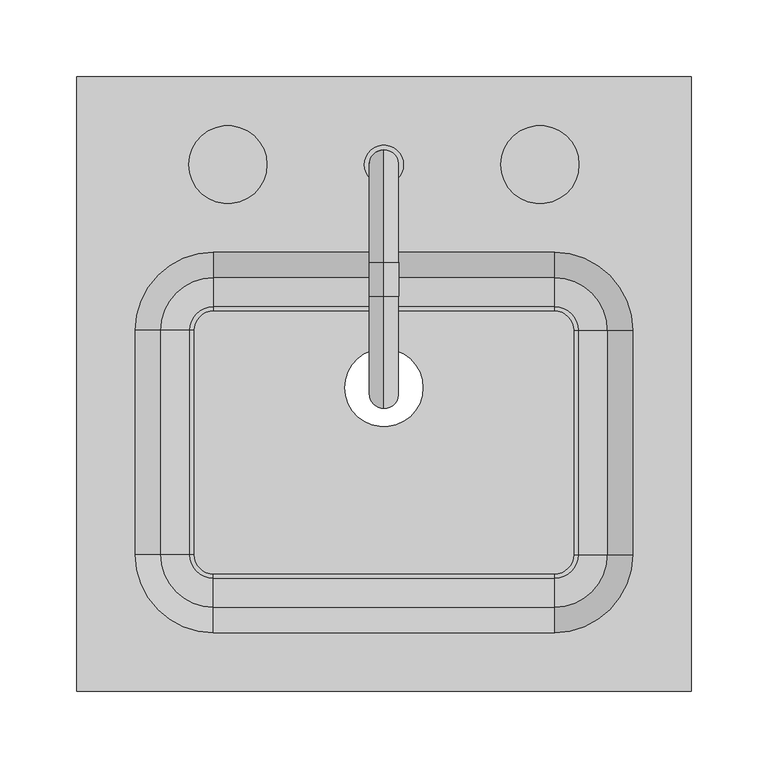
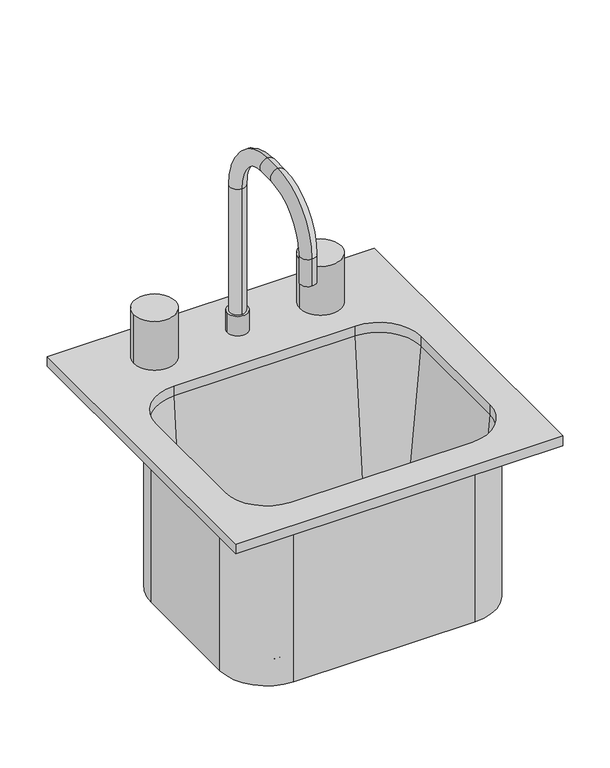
"""IFC4 building model written with IfcOpenShell, lengths in millimetres: flow terminal geometry, RF_Pias : Pia da Bancada."""

import ifcopenshell
import ifcopenshell.guid

model = None  # the IFC model being written
_history = None  # IfcOwnerHistory: only IFC2X3 demands one
_inside = {}  # id of a spatial element -> (the spatial element, [elements in it])
_under = {}  # id of a project, library or spatial element -> (it, [spatial elements below it])
_declared = {}  # id of a project -> (the project, [libraries it declares])
_typed = {}  # id of a type object -> (the type object, [elements of that type])
_made_of = {}  # id of a material, layer set ... -> (it, [elements and type objects made of it])


def new_model(schema):
    """Start an empty IFC model of exactly this schema.

    Asked for "IFC4X3", IfcOpenShell would pick the latest addendum, in which some entities
    have other attributes; the version numbers below select the first issue.
    IFC2X3 requires an IfcOwnerHistory on every rooted entity: one is made here for all.
    """
    global model, _history
    if schema == "IFC4X3":
        model = ifcopenshell.file(schema_version=(4, 3, 0, 0))
    else:
        model = ifcopenshell.file(schema=schema)
    _inside.clear()
    _under.clear()
    _declared.clear()
    _typed.clear()
    _made_of.clear()
    _history = None
    if model.schema == "IFC2X3":
        org = make("IfcOrganization", Name="unknown")
        user = make(
            "IfcPersonAndOrganization",
            ThePerson=make("IfcPerson", FamilyName="unknown"),
            TheOrganization=org,
        )
        app = make(
            "IfcApplication",
            ApplicationDeveloper=org,
            Version="unknown",
            ApplicationFullName="unknown",
            ApplicationIdentifier="unknown",
        )
        _history = make(
            "IfcOwnerHistory",
            OwningUser=user,
            OwningApplication=app,
            ChangeAction="ADDED",
            CreationDate=0,
        )
    return model


def make(cls, **values):
    """One entity of the class cls with the attributes given. An attribute that is None is left unset."""
    return model.create_entity(
        cls, **{name: value for name, value in values.items() if value is not None}
    )


def rooted(cls, **values):
    """An entity with a GlobalId (a new one), such as an element, a storey or a relation."""
    return make(cls, GlobalId=ifcopenshell.guid.new(), OwnerHistory=_history, **values)


def si_unit(unit_type, name, prefix=None):
    """IfcSIUnit, for example si_unit("LENGTHUNIT", "METRE", prefix="MILLI")."""
    return make("IfcSIUnit", UnitType=unit_type, Prefix=prefix, Name=name)


def assignment(units):
    """IfcUnitAssignment: the units of a project."""
    return None if units is None else make("IfcUnitAssignment", Units=units)


def point(xyz):
    """IfcCartesianPoint."""
    return None if xyz is None else make("IfcCartesianPoint", Coordinates=xyz)


def direction(xyz):
    """IfcDirection."""
    return None if xyz is None else make("IfcDirection", DirectionRatios=xyz)


def frame(location, z_axis=None, x_axis=None):
    """IfcAxis2Placement3D, a coordinate frame: its origin and axes. An axis left out is left unset."""
    return make(
        "IfcAxis2Placement3D",
        Location=point(location),
        Axis=direction(z_axis),
        RefDirection=direction(x_axis),
    )


def frame_2d(location, x_axis=None):
    """IfcAxis2Placement2D, a coordinate frame in the plane: its origin and x axis."""
    return make(
        "IfcAxis2Placement2D", Location=point(location), RefDirection=direction(x_axis)
    )


def origin():
    """The frame at (0, 0, 0) with its axes left unset."""
    return frame((0.0, 0.0, 0.0))


def place(relative_to, where):
    """IfcLocalPlacement: puts the frame where relative to a parent placement (None: the world)."""
    return make(
        "IfcLocalPlacement", PlacementRelTo=relative_to, RelativePlacement=where
    )


def context(
    kind, dimensions, precision=None, world=None, true_north=None, identifier=None
):
    """IfcGeometricRepresentationContext, for example the 3D "Model" context."""
    return make(
        "IfcGeometricRepresentationContext",
        ContextIdentifier=identifier,
        ContextType=kind,
        CoordinateSpaceDimension=dimensions,
        Precision=precision,
        WorldCoordinateSystem=world,
        TrueNorth=true_north,
    )


def project(units=None, contexts=None):
    """IfcProject with its units and contexts."""
    return rooted(
        "IfcProject",
        Name="project",
        RepresentationContexts=contexts,
        UnitsInContext=assignment(units),
    )


def spatial(cls, under=None, at=None, **own):
    """A site, building, storey or space (cls), placed at a placement, below another one or the project."""
    s = rooted(cls, ObjectPlacement=at, **own)
    if under is not None:
        _under.setdefault(under.id(), (under, []))[1].append(s)
    return s


def polyline(points):
    """IfcPolyline through the points."""
    return make("IfcPolyline", Points=[point(p) for p in points])


def circle_curve(where, radius):
    """IfcCircle in the frame where."""
    return make("IfcCircle", Position=where, Radius=radius)


def ellipse_curve(where, semi_axis1, semi_axis2):
    """IfcEllipse in the frame where."""
    return make(
        "IfcEllipse", Position=where, SemiAxis1=semi_axis1, SemiAxis2=semi_axis2
    )


def trimmed(basis, trim1, trim2, sense, master):
    """IfcTrimmedCurve: the piece of a basis curve between two trims."""
    return make(
        "IfcTrimmedCurve",
        BasisCurve=basis,
        Trim1=trim1,
        Trim2=trim2,
        SenseAgreement=sense,
        MasterRepresentation=master,
    )


def segment(curve, same_sense, transition):
    """IfcCompositeCurveSegment."""
    return make(
        "IfcCompositeCurveSegment",
        Transition=transition,
        SameSense=same_sense,
        ParentCurve=curve,
    )


def composite_curve(segments, self_intersect=None):
    """IfcCompositeCurve: segments joined end to end."""
    return make("IfcCompositeCurve", Segments=segments, SelfIntersect=self_intersect)


def outline(outer, holes=None, kind="AREA"):
    """IfcArbitraryClosedProfileDef: a profile drawn as a closed curve; with holes, ...WithVoids."""
    if holes is None:
        return make("IfcArbitraryClosedProfileDef", ProfileType=kind, OuterCurve=outer)
    return make(
        "IfcArbitraryProfileDefWithVoids",
        ProfileType=kind,
        OuterCurve=outer,
        InnerCurves=holes,
    )


def extrude(swept, where, along, depth):
    """IfcExtrudedAreaSolid: the profile swept, set in the frame where, extruded along a direction by depth."""
    return make(
        "IfcExtrudedAreaSolid",
        SweptArea=swept,
        Position=where,
        ExtrudedDirection=direction(along),
        Depth=depth,
    )


def shape(context_of_items, identifier, shape_type, items):
    """IfcShapeRepresentation: the items that make up one representation, for example the "Body"."""
    return make(
        "IfcShapeRepresentation",
        ContextOfItems=context_of_items,
        RepresentationIdentifier=identifier,
        RepresentationType=shape_type,
        Items=items,
    )


def source(mapping_origin, context_of_items, identifier, shape_type, items):
    """IfcRepresentationMap: a shape defined once, which mapped items show again and again."""
    return make(
        "IfcRepresentationMap",
        MappingOrigin=mapping_origin,
        MappedRepresentation=shape(context_of_items, identifier, shape_type, items),
    )


def transform(
    local_origin,
    x_axis=None,
    y_axis=None,
    z_axis=None,
    scale=None,
    scale2=None,
    scale3=None,
    uniform=True,
):
    """IfcCartesianTransformationOperator3D, or its non-uniform kind. x_axis, y_axis, z_axis: its Axis1, 2, 3."""
    if uniform:
        return make(
            "IfcCartesianTransformationOperator3D",
            Axis1=direction(x_axis),
            Axis2=direction(y_axis),
            LocalOrigin=point(local_origin),
            Scale=scale,
            Axis3=direction(z_axis),
        )
    return make(
        "IfcCartesianTransformationOperator3DnonUniform",
        Axis1=direction(x_axis),
        Axis2=direction(y_axis),
        LocalOrigin=point(local_origin),
        Scale=scale,
        Axis3=direction(z_axis),
        Scale2=scale2,
        Scale3=scale3,
    )


def mapped(mapping_source, mapping_target):
    """IfcMappedItem: shows the shape of a source again, moved by a transform."""
    return make(
        "IfcMappedItem", MappingSource=mapping_source, MappingTarget=mapping_target
    )


def made_of(thing, what):
    """Note that an element or type object is made of a material, layer set ...; save() writes the relation."""
    if what is not None:
        _made_of.setdefault(what.id(), (what, []))[1].append(thing)
    return thing


def element(
    cls,
    number,
    at=None,
    inside=None,
    cuts=None,
    type_object=None,
    material=None,
    context=None,
    identifier="Body",
    shape_type=None,
    held_by="IfcProductDefinitionShape",
    body=None,
    shapes=None,
    **own,
):
    """One element of the class cls, such as IfcWall. Its Tag is "e" and its number.

    at: its placement. inside: the storey or other place that contains it. cuts: it is an
    opening in that element (IfcRelVoidsElement). A single representation is given by context,
    identifier, shape_type and body (its items); several are given by shapes. held_by: the class
    of the entity that holds the representations. save() writes the other relations.
    """
    e = rooted(cls, Tag="e%d" % number, ObjectPlacement=at, **own)
    if body is not None:
        shapes = [shape(context, identifier, shape_type, body)]
    if shapes is not None:
        e.Representation = make(held_by, Representations=shapes)
    if inside is not None:
        _inside.setdefault(inside.id(), (inside, []))[1].append(e)
    if cuts is not None:
        rooted(
            "IfcRelVoidsElement", RelatingBuildingElement=cuts, RelatedOpeningElement=e
        )
    if type_object is not None:
        _typed.setdefault(type_object.id(), (type_object, []))[1].append(e)
    return made_of(e, material)


def aggregate(whole, parts):
    """IfcRelAggregates: a whole, such as a stair, and the parts it consists of."""
    return rooted("IfcRelAggregates", RelatingObject=whole, RelatedObjects=parts)


def save(model, path):
    """Write the relations noted so far, then the file.

    IfcRelAggregates (storeys below a building ...), IfcRelContainedInSpatialStructure (elements
    in a storey), IfcRelDefinesByType, IfcRelAssociatesMaterial and IfcRelDeclares: one each for
    every whole, place, type object, material and project.
    """
    for whole, parts in _under.values():
        aggregate(whole, parts)
    for where, things in _inside.values():
        rooted(
            "IfcRelContainedInSpatialStructure",
            RelatedElements=things,
            RelatingStructure=where,
        )
    for kind, things in _typed.values():
        rooted("IfcRelDefinesByType", RelatedObjects=things, RelatingType=kind)
    for what, things in _made_of.values():
        rooted("IfcRelAssociatesMaterial", RelatedObjects=things, RelatingMaterial=what)
    for by, libraries in _declared.values():
        rooted("IfcRelDeclares", RelatingContext=by, RelatedDefinitions=libraries)
    model.write(path)


def plane_surface(at):
    """IfcPlane: the flat surface through the origin of the frame at, square to its z axis."""
    return make("IfcPlane", Position=at)


def cylinder_surface(at, radius):
    """IfcCylindricalSurface: all points at the distance radius from the z axis of the frame at."""
    return make("IfcCylindricalSurface", Position=at, Radius=radius)


def revolved_surface(curve, axis_point, axis_direction):
    """IfcSurfaceOfRevolution: the curve turned about the line through axis_point along axis_direction."""
    return make(
        "IfcSurfaceOfRevolution",
        SweptCurve=make("IfcArbitraryOpenProfileDef", ProfileType="CURVE", Curve=curve),
        AxisPosition=make("IfcAxis1Placement", Location=point(axis_point), Axis=direction(axis_direction)),
    )


def advanced_brep(points, edges, surfaces, faces):
    """IfcAdvancedBrep: a solid bounded by faces that lie on surfaces and meet in shared edges.

    An edge is (start, end): straight between two places in points (the first is 0);
    or (start, end, curve); or (start, end, curve, False) where it runs against its curve.
    A face is (place in surfaces, loops), or (place, loops, False) where it looks against
    its surface's normal. A loop lists edges by number (the first is 1), with a minus sign
    where the edge is run from its end to its start. The first loop is the outer one.
    """
    corners = [point(p) for p in points]
    vertices = [make("IfcVertexPoint", VertexGeometry=c) for c in corners]
    made = []
    for start, end, *more in edges:
        made.append(
            make(
                "IfcEdgeCurve",
                EdgeStart=vertices[start],
                EdgeEnd=vertices[end],
                EdgeGeometry=more[0] if more else make("IfcPolyline", Points=[corners[start], corners[end]]),
                SameSense=more[1] if len(more) > 1 else True,
            )
        )
    hull = []
    for where, loops, *sense in faces:
        bounds = []
        for j, loop in enumerate(loops):
            ring = [make("IfcOrientedEdge", EdgeElement=made[abs(k) - 1], Orientation=k > 0) for k in loop]
            bounds.append(
                make(
                    "IfcFaceOuterBound" if j == 0 else "IfcFaceBound",
                    Bound=make("IfcEdgeLoop", EdgeList=ring),
                    Orientation=True,
                )
            )
        hull.append(make("IfcAdvancedFace", Bounds=bounds, FaceSurface=surfaces[where], SameSense=sense[0] if sense else True))
    return make("IfcAdvancedBrep", Outer=make("IfcClosedShell", CfsFaces=hull))


def flow_terminal_cab7bae2(model_context):
    return source(origin(), model_context, "Body", "SolidModel", [
        advanced_brep(
        [(215.6892406, 202.3454011, 927.1), (-184.3107594, 202.3454011, 927.1), (-184.3107594, -197.6545989, 927.1), (215.6892406, -197.6545989, 927.1), (126.7892406, 88.0454011, 927.1), (177.5892406, 37.2454011, 927.1), (177.5892406, -108.7545989, 927.1), (126.7892406, -159.5545989, 927.1), (-95.4107594, -159.5545989, 927.1), (-146.2107594, -108.7545989, 927.1), (-146.2107594, 37.2454011, 927.1), (-95.4107594, 88.0454011, 927.1), (215.6892406, 202.3454011, 914.4), (215.6892406, -197.6545989, 914.4), (-184.3107594, -197.6545989, 914.4), (-184.3107594, 202.3454011, 914.4), (183.9392406, 37.2454011, 914.4), (126.7892406, 94.3954011, 914.4), (-95.4107594, 94.3954011, 914.4), (-152.5607594, 37.2454011, 914.4), (-152.5607594, -108.7545989, 914.4), (-95.4107594, -165.9045989, 914.4), (126.7892406, -165.9045989, 914.4), (183.9392406, -108.7545989, 914.4), (126.7892406, 88.0454011, 914.4), (177.5892406, 37.2454011, 914.4), (177.5892406, -108.7545989, 914.4), (126.7892406, -159.5545989, 914.4), (-95.4107594, -159.5545989, 914.4), (-146.2107594, -108.7545989, 914.4), (-146.2107594, 37.2454011, 914.4), (-95.4107594, 88.0454011, 914.4), (183.9392406, 37.2454011, 698.5), (126.7892406, 94.3954011, 698.5), (139.4892406, 37.2454011, 698.5), (126.7892406, 49.9454011, 698.5), (139.4892406, 37.2454011, 708.025), (126.7892406, 49.9454011, 708.025), (142.0776588, 37.2454011, 708.025), (126.7892406, 52.5338193, 708.025), (161.0551678, 37.2454011, 725.4146831), (126.7892406, 71.5113283, 725.4146831), (183.9392406, -108.7545989, 698.5), (139.4892406, -108.7545989, 698.5), (139.4892406, -108.7545989, 708.025), (142.0776588, -108.7545989, 708.025), (161.0551678, -108.7545989, 725.4146831), (126.7892406, -165.9045989, 698.5), (126.7892406, -121.4545989, 698.5), (126.7892406, -121.4545989, 708.025), (126.7892406, -124.0430171, 708.025), (126.7892406, -143.0205261, 725.4146831), (-95.4107594, -165.9045989, 698.5), (-95.4107594, -121.4545989, 698.5), (-95.4107594, -121.4545989, 708.025), (-95.4107594, -124.0430171, 708.025), (-95.4107594, -143.0205261, 725.4146831), (-152.5607594, -108.7545989, 698.5), (-108.1107594, -108.7545989, 698.5), (-108.1107594, -108.7545989, 708.025), (-110.6991776, -108.7545989, 708.025), (-129.6766866, -108.7545989, 725.4146831), (-152.5607594, 37.2454011, 698.5), (-108.1107594, 37.2454011, 698.5), (-108.1107594, 37.2454011, 708.025), (-110.6991776, 37.2454011, 708.025), (-129.6766866, 37.2454011, 725.4146831), (-95.4107594, 94.3954011, 698.5), (-95.4107594, 49.9454011, 698.5), (-95.4107594, 49.9454011, 708.025), (-95.4107594, 52.5338193, 708.025), (-95.4107594, 71.5113283, 725.4146831)],
        [
            (0, 1),
            (1, 2),
            (2, 3),
            (3, 0),
            (4, 5, circle_curve(frame((126.7892406, 37.2454011, 927.1), z_axis=(0.0, 0.0, -1.0), x_axis=(1.0, 0.0, 0.0)), 50.8)),
            (5, 6),
            (6, 7, circle_curve(frame((126.7892406, -108.7545989, 927.1), z_axis=(0.0, 0.0, -1.0), x_axis=(1.0, 0.0, 0.0)), 50.8)),
            (7, 8),
            (8, 9, circle_curve(frame((-95.4107594, -108.7545989, 927.1), z_axis=(0.0, 0.0, -1.0), x_axis=(1.0, 0.0, 0.0)), 50.8)),
            (9, 10),
            (10, 11, circle_curve(frame((-95.4107594, 37.2454011, 927.1), z_axis=(0.0, 0.0, -1.0), x_axis=(1.0, 0.0, 0.0)), 50.8)),
            (11, 4),
            (12, 13),
            (13, 14),
            (14, 15),
            (15, 12),
            (16, 17, circle_curve(frame((126.7892406, 37.2454011, 914.4), z_axis=(0.0, 0.0, 1.0), x_axis=(0.0, 1.0, 0.0)), 57.15)),
            (17, 18),
            (18, 19, circle_curve(frame((-95.4107594, 37.2454011, 914.4), z_axis=(0.0, 0.0, 1.0), x_axis=(-1.0, 0.0, 0.0)), 57.15)),
            (19, 20),
            (20, 21, circle_curve(frame((-95.4107594, -108.7545989, 914.4), z_axis=(0.0, 0.0, 1.0), x_axis=(0.0, -1.0, 0.0)), 57.15)),
            (21, 22),
            (22, 23, circle_curve(frame((126.7892406, -108.7545989, 914.4), z_axis=(0.0, 0.0, 1.0), x_axis=(1.0, 0.0, 0.0)), 57.15)),
            (23, 16),
            (0, 12),
            (15, 1),
            (14, 2),
            (13, 3),
            (4, 24),
            (24, 25, circle_curve(frame((126.7892406, 37.2454011, 914.4), z_axis=(0.0, 0.0, -1.0), x_axis=(1.0, 0.0, 0.0)), 50.8)),
            (25, 5),
            (25, 26),
            (26, 6),
            (26, 27, circle_curve(frame((126.7892406, -108.7545989, 914.4), z_axis=(0.0, 0.0, -1.0), x_axis=(1.0, 0.0, 0.0)), 50.8)),
            (27, 7),
            (27, 28),
            (28, 8),
            (28, 29, circle_curve(frame((-95.4107594, -108.7545989, 914.4), z_axis=(0.0, 0.0, -1.0), x_axis=(1.0, 0.0, 0.0)), 50.8)),
            (29, 9),
            (29, 30),
            (30, 10),
            (30, 31, circle_curve(frame((-95.4107594, 37.2454011, 914.4), z_axis=(0.0, 0.0, -1.0), x_axis=(1.0, 0.0, 0.0)), 50.8)),
            (31, 11),
            (31, 24),
            (32, 33, circle_curve(frame((126.7892406, 37.2454011, 698.5), z_axis=(0.0, 0.0, 1.0), x_axis=(0.0, 1.0, 0.0)), 57.15)),
            (33, 17),
            (16, 32),
            (32, 34),
            (34, 35, circle_curve(frame((126.7892406, 37.2454011, 698.5), z_axis=(0.0, 0.0, 1.0), x_axis=(0.0, 1.0, 0.0)), 12.7)),
            (35, 33),
            (34, 36),
            (36, 37, circle_curve(frame((126.7892406, 37.2454011, 708.025), z_axis=(0.0, 0.0, 1.0), x_axis=(0.0, 1.0, 0.0)), 12.7)),
            (37, 35),
            (36, 38),
            (38, 39, circle_curve(frame((126.7892406, 37.2454011, 708.025), z_axis=(0.0, 0.0, 1.0), x_axis=(0.0, 1.0, 0.0)), 15.2884182)),
            (39, 37),
            (38, 40, circle_curve(frame((142.0776588, 37.2454011, 727.075), z_axis=(0.0, -1.0, 0.0), x_axis=(1.0, 0.0, 0.0)), 19.05)),
            (40, 41, circle_curve(frame((126.7892406, 37.2454011, 725.4146831), z_axis=(0.0, 0.0, 1.0), x_axis=(0.0, 1.0, 0.0)), 34.2659272)),
            (41, 39, circle_curve(frame((126.7892406, 52.5338193, 727.075), z_axis=(-1.0, 0.0, 0.0), x_axis=(0.0, 1.0, 0.0)), 19.05)),
            (40, 25),
            (24, 41),
            (23, 42),
            (42, 32),
            (42, 43),
            (43, 34),
            (43, 44),
            (44, 36),
            (44, 45),
            (45, 38),
            (45, 46, circle_curve(frame((142.0776588, -108.7545989, 727.075), z_axis=(0.0, -1.0, 0.0), x_axis=(1.0, 0.0, 0.0)), 19.05)),
            (46, 40),
            (46, 26),
            (22, 47),
            (47, 42, circle_curve(frame((126.7892406, -108.7545989, 698.5), z_axis=(0.0, 0.0, 1.0), x_axis=(1.0, 0.0, 0.0)), 57.15)),
            (47, 48),
            (48, 43, circle_curve(frame((126.7892406, -108.7545989, 698.5), z_axis=(0.0, 0.0, 1.0), x_axis=(1.0, 0.0, 0.0)), 12.7)),
            (48, 49),
            (49, 44, circle_curve(frame((126.7892406, -108.7545989, 708.025), z_axis=(0.0, 0.0, 1.0), x_axis=(1.0, 0.0, 0.0)), 12.7)),
            (49, 50),
            (50, 45, circle_curve(frame((126.7892406, -108.7545989, 708.025), z_axis=(0.0, 0.0, 1.0), x_axis=(1.0, 0.0, 0.0)), 15.2884182)),
            (50, 51, circle_curve(frame((126.7892406, -124.0430171, 727.075), z_axis=(-1.0, 0.0, 0.0), x_axis=(0.0, -1.0, 0.0)), 19.05)),
            (51, 46, circle_curve(frame((126.7892406, -108.7545989, 725.4146831), z_axis=(0.0, 0.0, 1.0), x_axis=(1.0, 0.0, 0.0)), 34.2659272)),
            (51, 27),
            (21, 52),
            (52, 47),
            (52, 53),
            (53, 48),
            (53, 54),
            (54, 49),
            (54, 55),
            (55, 50),
            (55, 56, circle_curve(frame((-95.4107594, -124.0430171, 727.075), z_axis=(-1.0, 0.0, 0.0), x_axis=(0.0, -1.0, 0.0)), 19.05)),
            (56, 51),
            (56, 28),
            (20, 57),
            (57, 52, circle_curve(frame((-95.4107594, -108.7545989, 698.5), z_axis=(0.0, 0.0, 1.0), x_axis=(0.0, -1.0, 0.0)), 57.15)),
            (57, 58),
            (58, 53, circle_curve(frame((-95.4107594, -108.7545989, 698.5), z_axis=(0.0, 0.0, 1.0), x_axis=(0.0, -1.0, 0.0)), 12.7)),
            (58, 59),
            (59, 54, circle_curve(frame((-95.4107594, -108.7545989, 708.025), z_axis=(0.0, 0.0, 1.0), x_axis=(0.0, -1.0, 0.0)), 12.7)),
            (59, 60),
            (60, 55, circle_curve(frame((-95.4107594, -108.7545989, 708.025), z_axis=(0.0, 0.0, 1.0), x_axis=(0.0, -1.0, 0.0)), 15.2884182)),
            (60, 61, circle_curve(frame((-110.6991776, -108.7545989, 727.075), z_axis=(0.0, 1.0, 0.0), x_axis=(-1.0, 0.0, 0.0)), 19.05)),
            (61, 56, circle_curve(frame((-95.4107594, -108.7545989, 725.4146831), z_axis=(0.0, 0.0, 1.0), x_axis=(0.0, -1.0, 0.0)), 34.2659272)),
            (61, 29),
            (19, 62),
            (62, 57),
            (62, 63),
            (63, 58),
            (63, 64),
            (64, 59),
            (64, 65),
            (65, 60),
            (65, 66, circle_curve(frame((-110.6991776, 37.2454011, 727.075), z_axis=(0.0, 1.0, 0.0), x_axis=(-1.0, 0.0, 0.0)), 19.05)),
            (66, 61),
            (66, 30),
            (18, 67),
            (67, 62, circle_curve(frame((-95.4107594, 37.2454011, 698.5), z_axis=(0.0, 0.0, 1.0), x_axis=(-1.0, 0.0, 0.0)), 57.15)),
            (67, 68),
            (68, 63, circle_curve(frame((-95.4107594, 37.2454011, 698.5), z_axis=(0.0, 0.0, 1.0), x_axis=(-1.0, 0.0, 0.0)), 12.7)),
            (68, 69),
            (69, 64, circle_curve(frame((-95.4107594, 37.2454011, 708.025), z_axis=(0.0, 0.0, 1.0), x_axis=(-1.0, 0.0, 0.0)), 12.7)),
            (69, 70),
            (70, 65, circle_curve(frame((-95.4107594, 37.2454011, 708.025), z_axis=(0.0, 0.0, 1.0), x_axis=(-1.0, 0.0, 0.0)), 15.2884182)),
            (70, 71, circle_curve(frame((-95.4107594, 52.5338193, 727.075), z_axis=(1.0, 0.0, 0.0), x_axis=(0.0, 1.0, 0.0)), 19.05)),
            (71, 66, circle_curve(frame((-95.4107594, 37.2454011, 725.4146831), z_axis=(0.0, 0.0, 1.0), x_axis=(-1.0, 0.0, 0.0)), 34.2659272)),
            (71, 31),
            (33, 67),
            (35, 68),
            (37, 69),
            (39, 70),
            (41, 71),
        ],
        [
            plane_surface(frame((-184.3107594, 202.3454011, 927.1), z_axis=(0.0, 0.0, 1.0), x_axis=(-1.0, 0.0, 0.0))),
            plane_surface(frame((-184.3107594, 202.3454011, 914.4), z_axis=(0.0, 0.0, -1.0), x_axis=(1.0, 0.0, 0.0))),
            plane_surface(frame((215.6892406, 202.3454011, 927.1), z_axis=(0.0, 1.0, 0.0), x_axis=(0.0, 0.0, -1.0))),
            plane_surface(frame((-184.3107594, 202.3454011, 927.1), z_axis=(-1.0, 0.0, 0.0), x_axis=(0.0, 0.0, -1.0))),
            plane_surface(frame((-184.3107594, -197.6545989, 927.1), z_axis=(0.0, -1.0, 0.0), x_axis=(0.0, 0.0, -1.0))),
            plane_surface(frame((215.6892406, -197.6545989, 927.1), z_axis=(1.0, 0.0, 0.0), x_axis=(0.0, 0.0, -1.0))),
            revolved_surface(polyline([(177.58924059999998, 37.2454011, 914.4), (177.58924059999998, 37.2454011, 927.1)]), (126.7892406, 37.2454011, 0.0), (0.0, 0.0, -1.0)),
            plane_surface(frame((177.5892406, 37.2454011, 927.1), z_axis=(-1.0, 0.0, 0.0), x_axis=(0.0, 0.0, -1.0))),
            revolved_surface(polyline([(177.58924059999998, -108.7545989, 914.4), (177.58924059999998, -108.7545989, 927.1)]), (126.7892406, -108.7545989, 0.0), (0.0, 0.0, -1.0)),
            plane_surface(frame((126.7892406, -159.5545989, 927.1), z_axis=(0.0, 1.0, 0.0), x_axis=(0.0, 0.0, -1.0))),
            revolved_surface(polyline([(-44.610759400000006, -108.7545989, 914.4), (-44.610759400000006, -108.7545989, 927.1)]), (-95.4107594, -108.7545989, 0.0), (0.0, 0.0, -1.0)),
            plane_surface(frame((-146.2107594, -108.7545989, 927.1), z_axis=(1.0, 0.0, 0.0), x_axis=(0.0, 0.0, -1.0))),
            revolved_surface(polyline([(-44.610759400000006, 37.2454011, 914.4), (-44.610759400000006, 37.2454011, 927.1)]), (-95.4107594, 37.2454011, 0.0), (0.0, 0.0, -1.0)),
            plane_surface(frame((-95.4107594, 88.0454011, 927.1), z_axis=(0.0, -1.0, 0.0), x_axis=(0.0, 0.0, -1.0))),
            cylinder_surface(frame((126.7892406, 37.2454011, 0.0), z_axis=(0.0, 0.0, -1.0), x_axis=(0.0, 1.0, 0.0)), 57.15),
            plane_surface(frame((126.7892406, 37.2454011, 698.5), z_axis=(0.0, 0.0, -1.0), x_axis=(0.0, 1.0, 0.0))),
            revolved_surface(polyline([(126.7892406, 49.9454011, 698.5), (126.7892406, 49.9454011, 708.025)]), (126.7892406, 37.2454011, 0.0), (0.0, 0.0, -1.0)),
            plane_surface(frame((126.7892406, 37.2454011, 708.025), z_axis=(0.0, 0.0, 1.0), x_axis=(0.0, 1.0, 0.0))),
            revolved_surface(trimmed(ellipse_curve(frame((126.7892406, 52.5338193, 727.075), z_axis=(1.0, 0.0, 0.0), x_axis=(0.0, 1.0, 0.0)), 19.05, 19.05), [point((126.7892406, 52.5338193, 708.025))], [point((126.7892406, 71.5113283, 725.4146831))], True, "CARTESIAN"), (126.7892406, 37.2454011, 0.0), (0.0, 0.0, -1.0)),
            revolved_surface(polyline([(126.7892406, 71.5113283, 725.4146831), (126.7892406, 88.0454011, 914.4)]), (126.7892406, 37.2454011, 0.0), (0.0, 0.0, -1.0)),
            plane_surface(frame((183.9392406, 37.2454011, 914.4), z_axis=(1.0, 0.0, 0.0), x_axis=(0.0, -1.0, 0.0))),
            plane_surface(frame((183.9392406, 37.2454011, 698.5), z_axis=(0.0, 0.0, -1.0), x_axis=(0.0, -1.0, 0.0))),
            plane_surface(frame((139.4892406, 37.2454011, 698.5), z_axis=(-1.0, 0.0, 0.0), x_axis=(0.0, -1.0, 0.0))),
            plane_surface(frame((139.4892406, 37.2454011, 708.025), z_axis=(0.0, 0.0, 1.0), x_axis=(0.0, -1.0, 0.0))),
            revolved_surface(polyline([(161.1276588, -108.75459889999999, 727.075), (161.1276588, 37.2454011, 727.075)]), (142.0776588, 37.2454011, 727.075), (0.0, -1.0, 0.0)),
            plane_surface(frame((161.0551678, 37.2454011, 725.4146831), z_axis=(-0.9961946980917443, 0.0, 0.08715574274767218), x_axis=(0.0, -1.0, 0.0))),
            cylinder_surface(frame((126.7892406, -108.7545989, 0.0), z_axis=(0.0, 0.0, -1.0), x_axis=(1.0, 0.0, 0.0)), 57.15),
            plane_surface(frame((126.7892406, -108.7545989, 698.5), z_axis=(0.0, 0.0, -1.0), x_axis=(1.0, 0.0, 0.0))),
            revolved_surface(polyline([(139.4892406, -108.7545989, 698.5), (139.4892406, -108.7545989, 708.025)]), (126.7892406, -108.7545989, 0.0), (0.0, 0.0, -1.0)),
            plane_surface(frame((126.7892406, -108.7545989, 708.025), z_axis=(0.0, 0.0, 1.0), x_axis=(1.0, 0.0, 0.0))),
            revolved_surface(trimmed(ellipse_curve(frame((142.0776588, -108.7545989, 727.075), z_axis=(0.0, -1.0, 0.0), x_axis=(1.0, 0.0, 0.0)), 19.05, 19.05), [point((142.0776588, -108.7545989, 708.025))], [point((161.0551678, -108.7545989, 725.4146831))], True, "CARTESIAN"), (126.7892406, -108.7545989, 0.0), (0.0, 0.0, -1.0)),
            revolved_surface(polyline([(161.0551678, -108.7545989, 725.4146831), (177.5892406, -108.7545989, 914.4)]), (126.7892406, -108.7545989, 0.0), (0.0, 0.0, -1.0)),
            plane_surface(frame((126.7892406, -165.9045989, 914.4), z_axis=(0.0, -1.0, 0.0), x_axis=(-1.0, 0.0, 0.0))),
            plane_surface(frame((126.7892406, -165.9045989, 698.5), z_axis=(0.0, 0.0, -1.0), x_axis=(-1.0, 0.0, 0.0))),
            plane_surface(frame((126.7892406, -121.4545989, 698.5), z_axis=(0.0, 1.0, 0.0), x_axis=(-1.0, 0.0, 0.0))),
            plane_surface(frame((126.7892406, -121.4545989, 708.025), z_axis=(0.0, 0.0, 1.0), x_axis=(-1.0, 0.0, 0.0))),
            revolved_surface(polyline([(-95.41075939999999, -143.0930171, 727.075), (126.7892406, -143.0930171, 727.075)]), (126.7892406, -124.0430171, 727.075), (-1.0, 0.0, 0.0)),
            plane_surface(frame((126.7892406, -143.0205261, 725.4146831), z_axis=(0.0, 0.9961946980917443, 0.08715574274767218), x_axis=(-1.0, 0.0, 0.0))),
            cylinder_surface(frame((-95.4107594, -108.7545989, 0.0), z_axis=(0.0, 0.0, -1.0), x_axis=(0.0, -1.0, 0.0)), 57.15),
            plane_surface(frame((-95.4107594, -108.7545989, 698.5), z_axis=(0.0, 0.0, -1.0), x_axis=(0.0, -1.0, 0.0))),
            revolved_surface(polyline([(-95.4107594, -121.45459890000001, 698.5), (-95.4107594, -121.45459890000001, 708.025)]), (-95.4107594, -108.7545989, 0.0), (0.0, 0.0, -1.0)),
            plane_surface(frame((-95.4107594, -108.7545989, 708.025), z_axis=(0.0, 0.0, 1.0), x_axis=(0.0, -1.0, 0.0))),
            revolved_surface(trimmed(ellipse_curve(frame((-95.4107594, -124.0430171, 727.075), z_axis=(-1.0, 0.0, 0.0), x_axis=(0.0, -1.0, 0.0)), 19.05, 19.05), [point((-95.4107594, -124.0430171, 708.025))], [point((-95.4107594, -143.0205261, 725.4146831))], True, "CARTESIAN"), (-95.4107594, -108.7545989, 0.0), (0.0, 0.0, -1.0)),
            revolved_surface(polyline([(-95.4107594, -143.0205261, 725.4146831), (-95.4107594, -159.5545989, 914.4)]), (-95.4107594, -108.7545989, 0.0), (0.0, 0.0, -1.0)),
            plane_surface(frame((-152.5607594, -108.7545989, 914.4), z_axis=(-1.0, 0.0, 0.0), x_axis=(0.0, 1.0, 0.0))),
            plane_surface(frame((-152.5607594, -108.7545989, 698.5), z_axis=(0.0, 0.0, -1.0), x_axis=(0.0, 1.0, 0.0))),
            plane_surface(frame((-108.1107594, -108.7545989, 698.5), z_axis=(1.0, 0.0, 0.0), x_axis=(0.0, 1.0, 0.0))),
            plane_surface(frame((-108.1107594, -108.7545989, 708.025), z_axis=(0.0, 0.0, 1.0), x_axis=(0.0, 1.0, 0.0))),
            revolved_surface(polyline([(-129.7491776, 37.245401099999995, 727.075), (-129.7491776, -108.7545989, 727.075)]), (-110.6991776, -108.7545989, 727.075), (0.0, 1.0, 0.0)),
            plane_surface(frame((-129.6766866, -108.7545989, 725.4146831), z_axis=(0.9961946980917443, 0.0, 0.08715574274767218), x_axis=(0.0, 1.0, 0.0))),
            cylinder_surface(frame((-95.4107594, 37.2454011, 0.0), z_axis=(0.0, 0.0, -1.0), x_axis=(-1.0, 0.0, 0.0)), 57.15),
            plane_surface(frame((-95.4107594, 37.2454011, 698.5), z_axis=(0.0, 0.0, -1.0), x_axis=(-1.0, 0.0, 0.0))),
            revolved_surface(polyline([(-108.1107594, 37.2454011, 698.5), (-108.1107594, 37.2454011, 708.025)]), (-95.4107594, 37.2454011, 0.0), (0.0, 0.0, -1.0)),
            plane_surface(frame((-95.4107594, 37.2454011, 708.025), z_axis=(0.0, 0.0, 1.0), x_axis=(-1.0, 0.0, 0.0))),
            revolved_surface(trimmed(ellipse_curve(frame((-110.6991776, 37.2454011, 727.075), z_axis=(0.0, 1.0, 0.0), x_axis=(-1.0, 0.0, 0.0)), 19.05, 19.05), [point((-110.6991776, 37.2454011, 708.025))], [point((-129.6766866, 37.2454011, 725.4146831))], True, "CARTESIAN"), (-95.4107594, 37.2454011, 0.0), (0.0, 0.0, -1.0)),
            revolved_surface(polyline([(-129.6766866, 37.2454011, 725.4146831), (-146.2107594, 37.2454011, 914.4)]), (-95.4107594, 37.2454011, 0.0), (0.0, 0.0, -1.0)),
            plane_surface(frame((-95.4107594, 94.3954011, 914.4), z_axis=(0.0, 1.0, 0.0), x_axis=(1.0, 0.0, 0.0))),
            plane_surface(frame((-95.4107594, 94.3954011, 698.5), z_axis=(0.0, 0.0, -1.0), x_axis=(1.0, 0.0, 0.0))),
            plane_surface(frame((-95.4107594, 49.9454011, 698.5), z_axis=(0.0, -1.0, 0.0), x_axis=(1.0, 0.0, 0.0))),
            plane_surface(frame((-95.4107594, 49.9454011, 708.025), z_axis=(0.0, 0.0, 1.0), x_axis=(1.0, 0.0, 0.0))),
            revolved_surface(polyline([(126.78924059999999, 71.5838193, 727.075), (-95.4107594, 71.5838193, 727.075)]), (-95.4107594, 52.5338193, 727.075), (1.0, 0.0, 0.0)),
            plane_surface(frame((-95.4107594, 71.5113283, 725.4146831), z_axis=(0.0, -0.9961946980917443, 0.08715574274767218), x_axis=(1.0, 0.0, 0.0))),
        ],
        [
            (0, [[1, 2, 3, 4], [5, 6, 7, 8, 9, 10, 11, 12]]),
            (1, [[13, 14, 15, 16], [17, 18, 19, 20, 21, 22, 23, 24]]),
            (2, [[-1, 25, -16, 26]]),
            (3, [[-2, -26, -15, 27]]),
            (4, [[-3, -27, -14, 28]]),
            (5, [[-4, -28, -13, -25]]),
            (6, [[-5, 29, 30, 31]]),
            (7, [[-6, -31, 32, 33]]),
            (8, [[-7, -33, 34, 35]]),
            (9, [[-8, -35, 36, 37]]),
            (10, [[-9, -37, 38, 39]]),
            (11, [[-10, -39, 40, 41]]),
            (12, [[-11, -41, 42, 43]]),
            (13, [[-12, -43, 44, -29]]),
            (14, [[45, 46, -17, 47]]),
            (15, [[-45, 48, 49, 50]]),
            (16, [[-49, 51, 52, 53]]),
            (17, [[-52, 54, 55, 56]]),
            (18, [[-55, 57, 58, 59]]),
            (19, [[-58, 60, -30, 61]]),
            (20, [[-47, -24, 62, 63]]),
            (21, [[-48, -63, 64, 65]]),
            (22, [[-51, -65, 66, 67]]),
            (23, [[-54, -67, 68, 69]]),
            (24, [[-57, -69, 70, 71]]),
            (25, [[-60, -71, 72, -32]]),
            (26, [[-62, -23, 73, 74]]),
            (27, [[-64, -74, 75, 76]]),
            (28, [[-66, -76, 77, 78]]),
            (29, [[-68, -78, 79, 80]]),
            (30, [[-70, -80, 81, 82]]),
            (31, [[-72, -82, 83, -34]]),
            (32, [[-73, -22, 84, 85]]),
            (33, [[-75, -85, 86, 87]]),
            (34, [[-77, -87, 88, 89]]),
            (35, [[-79, -89, 90, 91]]),
            (36, [[-81, -91, 92, 93]]),
            (37, [[-83, -93, 94, -36]]),
            (38, [[-84, -21, 95, 96]]),
            (39, [[-86, -96, 97, 98]]),
            (40, [[-88, -98, 99, 100]]),
            (41, [[-90, -100, 101, 102]]),
            (42, [[-92, -102, 103, 104]]),
            (43, [[-94, -104, 105, -38]]),
            (44, [[-95, -20, 106, 107]]),
            (45, [[-97, -107, 108, 109]]),
            (46, [[-99, -109, 110, 111]]),
            (47, [[-101, -111, 112, 113]]),
            (48, [[-103, -113, 114, 115]]),
            (49, [[-105, -115, 116, -40]]),
            (50, [[-106, -19, 117, 118]]),
            (51, [[-108, -118, 119, 120]]),
            (52, [[-110, -120, 121, 122]]),
            (53, [[-112, -122, 123, 124]]),
            (54, [[-114, -124, 125, 126]]),
            (55, [[-116, -126, 127, -42]]),
            (56, [[-46, 128, -117, -18]]),
            (57, [[-50, 129, -119, -128]]),
            (58, [[-53, 130, -121, -129]]),
            (59, [[-56, 131, -123, -130]]),
            (60, [[-59, 132, -125, -131]]),
            (61, [[-61, -44, -127, -132]]),
        ],
    ),
        advanced_brep(
        [(2.9892406, 145.1954011, 927.1), (28.3892406, 145.1954011, 927.1), (15.6892406, 154.7204011, 1114.425), (15.6892406, 135.6704011, 1114.425), (15.6892406, 135.6704011, 952.5), (15.6892406, 154.7204011, 952.5), (15.6892406, 81.6954011, 1187.45), (15.6892406, 81.6954011, 1168.4), (15.6892406, 59.4704011, 1187.45), (15.6892406, 59.4704011, 1168.4), (15.6892406, -13.5545989, 1114.425), (15.6892406, 5.4954011, 1114.425), (15.6892406, -13.5545989, 1079.5), (15.6892406, 5.4954011, 1079.5), (2.9892406, 145.1954011, 952.5), (28.3892406, 145.1954011, 952.5)],
        [
            (0, 1, circle_curve(frame((15.6892406, 145.1954011, 927.1), z_axis=(0.0, 0.0, -1.0), x_axis=(1.0, 0.0, 0.0)), 12.7)),
            (1, 0, circle_curve(frame((15.6892406, 145.1954011, 927.1), z_axis=(0.0, 0.0, -1.0), x_axis=(1.0, 0.0, 0.0)), 12.7)),
            (2, 3, circle_curve(frame((15.6892406, 145.1954011, 1114.425), z_axis=(0.0, 0.0, -1.0), x_axis=(0.0, -1.0, 0.0)), 9.525)),
            (3, 4),
            (4, 5, circle_curve(frame((15.6892406, 145.1954011, 952.5), z_axis=(0.0, 0.0, 1.0), x_axis=(0.0, -1.0, 0.0)), 9.525)),
            (5, 2),
            (3, 2, circle_curve(frame((15.6892406, 145.1954011, 1114.425), z_axis=(0.0, 0.0, -1.0), x_axis=(0.0, -1.0, 0.0)), 9.525)),
            (5, 4, circle_curve(frame((15.6892406, 145.1954011, 952.5), z_axis=(0.0, 0.0, 1.0), x_axis=(0.0, -1.0, 0.0)), 9.525)),
            (2, 6, circle_curve(frame((15.6892406, 81.6954011, 1114.425), z_axis=(1.0, 0.0, 0.0), x_axis=(0.0, 1.0, 0.0)), 73.025)),
            (6, 7, circle_curve(frame((15.6892406, 81.6954011, 1177.925), z_axis=(0.0, 1.0, 0.0), x_axis=(0.0, 0.0, -1.0)), 9.525)),
            (7, 3, circle_curve(frame((15.6892406, 81.6954011, 1114.425), z_axis=(-1.0, 0.0, 0.0), x_axis=(0.0, 1.0, 0.0)), 53.975)),
            (7, 6, circle_curve(frame((15.6892406, 81.6954011, 1177.925), z_axis=(0.0, 1.0, 0.0), x_axis=(0.0, 0.0, -1.0)), 9.525)),
            (6, 8),
            (8, 9, circle_curve(frame((15.6892406, 59.4704011, 1177.925), z_axis=(0.0, 1.0, 0.0), x_axis=(0.0, 0.0, -1.0)), 9.525)),
            (9, 7),
            (9, 8, circle_curve(frame((15.6892406, 59.4704011, 1177.925), z_axis=(0.0, 1.0, 0.0), x_axis=(0.0, 0.0, -1.0)), 9.525)),
            (8, 10, circle_curve(frame((15.6892406, 59.4704011, 1114.425), z_axis=(1.0, 0.0, 0.0), x_axis=(0.0, 0.0, 1.0)), 73.025)),
            (10, 11, circle_curve(frame((15.6892406, -4.0295989, 1114.425), z_axis=(0.0, 0.0, 1.0), x_axis=(0.0, 1.0, 0.0)), 9.525)),
            (11, 9, circle_curve(frame((15.6892406, 59.4704011, 1114.425), z_axis=(-1.0, 0.0, 0.0), x_axis=(0.0, 0.0, 1.0)), 53.975)),
            (11, 10, circle_curve(frame((15.6892406, -4.0295989, 1114.425), z_axis=(0.0, 0.0, 1.0), x_axis=(0.0, 1.0, 0.0)), 9.525)),
            (12, 13, circle_curve(frame((15.6892406, -4.0295989, 1079.5), z_axis=(0.0, 0.0, -1.0), x_axis=(0.0, 1.0, 0.0)), 9.525)),
            (13, 12, circle_curve(frame((15.6892406, -4.0295989, 1079.5), z_axis=(0.0, 0.0, -1.0), x_axis=(0.0, 1.0, 0.0)), 9.525)),
            (10, 12),
            (13, 11),
            (14, 15, circle_curve(frame((15.6892406, 145.1954011, 952.5), z_axis=(0.0, 0.0, 1.0), x_axis=(1.0, 0.0, 0.0)), 12.7)),
            (15, 14, circle_curve(frame((15.6892406, 145.1954011, 952.5), z_axis=(0.0, 0.0, 1.0), x_axis=(1.0, 0.0, 0.0)), 12.7)),
            (14, 0),
            (1, 15),
        ],
        [
            plane_surface(frame((15.6892406, 135.6704011, 927.1), z_axis=(0.0, 0.0, -1.0), x_axis=(1.0, 0.0, 0.0))),
            cylinder_surface(frame((15.6892406, 145.1954011, 927.1), z_axis=(0.0, 0.0, -1.0), x_axis=(0.0, -1.0, 0.0)), 9.525),
            revolved_surface(trimmed(ellipse_curve(frame((15.6892406, 145.1954011, 1114.425), z_axis=(0.0, 0.0, -1.0), x_axis=(0.0, -1.0, 0.0)), 9.525, 9.525), [point((15.6892406, 154.7204011, 1114.425))], [point((15.6892406, 135.6704011, 1114.425))], True, "CARTESIAN"), (15.6892406, 81.6954011, 1114.425), (1.0, 0.0, 0.0)),
            revolved_surface(trimmed(ellipse_curve(frame((15.6892406, 145.1954011, 1114.425), z_axis=(0.0, 0.0, -1.0), x_axis=(0.0, -1.0, 0.0)), 9.525, 9.525), [point((15.6892406, 135.6704011, 1114.425))], [point((15.6892406, 154.7204011, 1114.425))], True, "CARTESIAN"), (15.6892406, 81.6954011, 1114.425), (1.0, 0.0, 0.0)),
            cylinder_surface(frame((15.6892406, 81.6954011, 1177.925), z_axis=(0.0, 1.0, 0.0), x_axis=(0.0, 0.0, -1.0)), 9.525),
            revolved_surface(trimmed(ellipse_curve(frame((15.6892406, 59.4704011, 1177.925), z_axis=(0.0, 1.0, 0.0), x_axis=(0.0, 0.0, -1.0)), 9.525, 9.525), [point((15.6892406, 59.4704011, 1187.45))], [point((15.6892406, 59.4704011, 1168.4))], True, "CARTESIAN"), (15.6892406, 59.4704011, 1114.425), (1.0, 0.0, 0.0)),
            revolved_surface(trimmed(ellipse_curve(frame((15.6892406, 59.4704011, 1177.925), z_axis=(0.0, 1.0, 0.0), x_axis=(0.0, 0.0, -1.0)), 9.525, 9.525), [point((15.6892406, 59.4704011, 1168.4))], [point((15.6892406, 59.4704011, 1187.45))], True, "CARTESIAN"), (15.6892406, 59.4704011, 1114.425), (1.0, 0.0, 0.0)),
            plane_surface(frame((15.6892406, -13.5545989, 1079.5), z_axis=(0.0, 0.0, -1.0), x_axis=(-1.0, 0.0, 0.0))),
            cylinder_surface(frame((15.6892406, -4.0295989, 1114.425), z_axis=(0.0, 0.0, 1.0), x_axis=(0.0, 1.0, 0.0)), 9.525),
            plane_surface(frame((28.3892406, 145.1954011, 952.5), z_axis=(0.0, 0.0, 1.0), x_axis=(0.0, 1.0, 0.0))),
            cylinder_surface(frame((15.6892406, 145.1954011, 927.1), z_axis=(0.0, 0.0, 1.0), x_axis=(1.0, 0.0, 0.0)), 12.7),
        ],
        [
            (0, [[1, 2]]),
            (1, [[3, 4, 5, 6]]),
            (1, [[7, -6, 8, -4]]),
            (2, [[-3, 9, 10, 11]]),
            (3, [[-7, -11, 12, -9]]),
            (4, [[-10, 13, 14, 15]]),
            (4, [[-12, -15, 16, -13]]),
            (5, [[-14, 17, 18, 19]]),
            (6, [[-16, -19, 20, -17]]),
            (7, [[21, 22]]),
            (8, [[-18, 23, -22, 24]]),
            (8, [[-20, -24, -21, -23]]),
            (9, [[25, 26], [-5, -8]]),
            (10, [[-25, 27, -2, 28]]),
            (10, [[-26, -28, -1, -27]]),
        ],
    ),
        extrude(outline(composite_curve([segment(trimmed(circle_curve(frame_2d((-85.9107594, 145.1954011)), 25.4), [point((-111.3107594, 145.1954011))], [point((-60.5107594, 145.1954011))], False, "CARTESIAN"), True, "CONTINUOUS"), segment(trimmed(circle_curve(frame_2d((-85.9107594, 145.1954011)), 25.4), [point((-60.5107594, 145.1954011))], [point((-111.3107594, 145.1954011))], False, "CARTESIAN"), True, "CONTINUOUS")], self_intersect=False)), frame((0.0, 0.0, 927.1), z_axis=(0.0, 0.0, 1.0), x_axis=(1.0, 0.0, 0.0)), (0.0, 0.0, 1.0), 63.5),
        extrude(outline(composite_curve([segment(trimmed(circle_curve(frame_2d((117.2892406, 145.1954011)), 25.4), [point((91.8892406, 145.1954011))], [point((142.6892406, 145.1954011))], False, "CARTESIAN"), True, "CONTINUOUS"), segment(trimmed(circle_curve(frame_2d((117.2892406, 145.1954011)), 25.4), [point((142.6892406, 145.1954011))], [point((91.8892406, 145.1954011))], False, "CARTESIAN"), True, "CONTINUOUS")], self_intersect=False)), frame((0.0, 0.0, 927.1), z_axis=(0.0, 0.0, 1.0), x_axis=(1.0, 0.0, 0.0)), (0.0, 0.0, 1.0), 63.5),
        extrude(outline(composite_curve([segment(trimmed(circle_curve(frame_2d((126.7892406, 37.2454011)), 12.7), [point((126.7892406, 49.9454011))], [point((139.4892406, 37.2454011))], False, "CARTESIAN"), True, "CONTINUOUS"), segment(polyline([(139.4892406, 37.2454011), (139.4892406, -108.7545989)]), True, "CONTINUOUS"), segment(trimmed(circle_curve(frame_2d((126.7892406, -108.7545989)), 12.7), [point((139.4892406, -108.7545989))], [point((126.7892406, -121.4545989))], False, "CARTESIAN"), True, "CONTINUOUS"), segment(polyline([(126.7892406, -121.4545989), (-95.4107594, -121.4545989)]), True, "CONTINUOUS"), segment(trimmed(circle_curve(frame_2d((-95.4107594, -108.7545989)), 12.7), [point((-95.4107594, -121.4545989))], [point((-108.1107594, -108.7545989))], False, "CARTESIAN"), True, "CONTINUOUS"), segment(polyline([(-108.1107594, -108.7545989), (-108.1107594, 37.2454011)]), True, "CONTINUOUS"), segment(trimmed(circle_curve(frame_2d((-95.4107594, 37.2454011)), 12.7), [point((-108.1107594, 37.2454011))], [point((-95.4107594, 49.9454011))], False, "CARTESIAN"), True, "CONTINUOUS"), segment(polyline([(-95.4107594, 49.9454011), (126.7892406, 49.9454011)]), True, "CONTINUOUS")], self_intersect=False), holes=[composite_curve([segment(trimmed(circle_curve(frame_2d((15.6892406, 0.0)), 25.4), [point((-9.7107594, 0.0))], [point((41.0892406, 0.0))], True, "CARTESIAN"), True, "CONTINUOUS"), segment(trimmed(circle_curve(frame_2d((15.6892406, 0.0)), 25.4), [point((41.0892406, 0.0))], [point((-9.7107594, 0.0))], True, "CARTESIAN"), True, "CONTINUOUS")], self_intersect=False)]), frame((0.0, 0.0, 698.5), z_axis=(0.0, 0.0, 1.0), x_axis=(1.0, 0.0, 0.0)), (0.0, 0.0, 1.0), 9.525),
    ])


if __name__ == "__main__":
    model = new_model("IFC4")
    model_context = context("Model", 3, world=origin())
    ifc_project = project(units=[si_unit("LENGTHUNIT", "METRE", prefix="MILLI")], contexts=[model_context])
    site = spatial("IfcSite", under=ifc_project)
    building = spatial("IfcBuilding", under=site)
    placement = place(None, origin())
    flow_terminal_shape = flow_terminal_cab7bae2(model_context)
    element("IfcFlowTerminal", 1, ObjectType="RF_Pias : Pia da Bancada", at=placement, inside=building, context=model_context, shape_type="MappedRepresentation", body=[
        mapped(flow_terminal_shape, transform((0.0, 0.0, 0.0), x_axis=(1.0, 0.0, 0.0), y_axis=(0.0, 1.0, 0.0), z_axis=(0.0, 0.0, 1.0))),
    ])
    save(model, "model.ifc")
